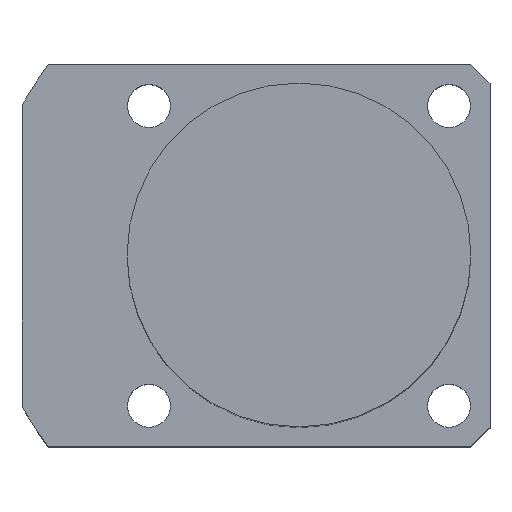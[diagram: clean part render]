
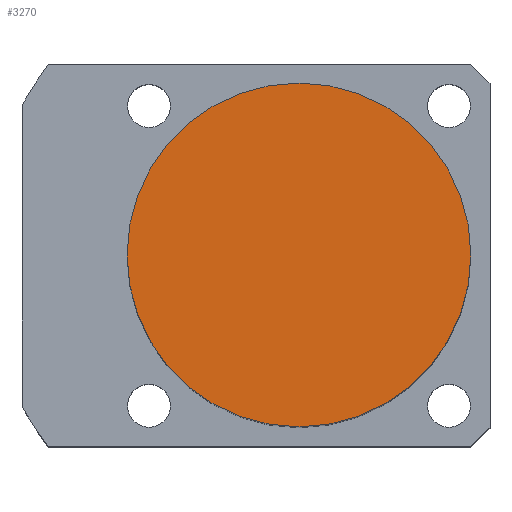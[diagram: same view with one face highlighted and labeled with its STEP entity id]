
A CAD part, top view. The second image highlights one B-rep face of the part: STEP entity #3270.
In plain terms, the highlighted planar face has unit normal (0, 0, 1).
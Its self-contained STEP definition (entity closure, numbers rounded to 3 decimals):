
#104 = AXIS2_PLACEMENT_3D ( 'NONE', #2348, #183, #1735 ) ;
#183 = DIRECTION ( 'NONE',  ( 0., 0., 1. ) ) ;
#329 = PLANE ( 'NONE',  #2773 ) ;
#414 = DIRECTION ( 'NONE',  ( 0., 0., 1. ) ) ;
#774 = VERTEX_POINT ( 'NONE', #3415 ) ;
#827 = AXIS2_PLACEMENT_3D ( 'NONE', #2274, #414, #2582 ) ;
#841 = CIRCLE ( 'NONE', #827, 18. ) ;
#1137 = FACE_OUTER_BOUND ( 'NONE', #1620, .T. ) ;
#1414 = CARTESIAN_POINT ( 'NONE',  ( 18., 0., 63.5 ) ) ;
#1560 = EDGE_CURVE ( 'NONE', #774, #3579, #2322, .T. ) ;
#1582 = DIRECTION ( 'NONE',  ( 0., 0., 1. ) ) ;
#1620 = EDGE_LOOP ( 'NONE', ( #2270, #2588 ) ) ;
#1735 = DIRECTION ( 'NONE',  ( 1., 0., 0. ) ) ;
#2270 = ORIENTED_EDGE ( 'NONE', *, *, #1560, .T. ) ;
#2274 = CARTESIAN_POINT ( 'NONE',  ( 0., 0., 63.5 ) ) ;
#2322 = CIRCLE ( 'NONE', #104, 18. ) ;
#2348 = CARTESIAN_POINT ( 'NONE',  ( 0., 0., 63.5 ) ) ;
#2582 = DIRECTION ( 'NONE',  ( 1., 0., 0. ) ) ;
#2588 = ORIENTED_EDGE ( 'NONE', *, *, #3390, .T. ) ;
#2773 = AXIS2_PLACEMENT_3D ( 'NONE', #3148, #1582, #3753 ) ;
#3148 = CARTESIAN_POINT ( 'NONE',  ( 0., 0., 63.5 ) ) ;
#3270 = ADVANCED_FACE ( 'NONE', ( #1137 ), #329, .T. ) ;
#3390 = EDGE_CURVE ( 'NONE', #3579, #774, #841, .T. ) ;
#3415 = CARTESIAN_POINT ( 'NONE',  ( -18., 0., 63.5 ) ) ;
#3579 = VERTEX_POINT ( 'NONE', #1414 ) ;
#3753 = DIRECTION ( 'NONE',  ( 1., 0., 0. ) ) ;
